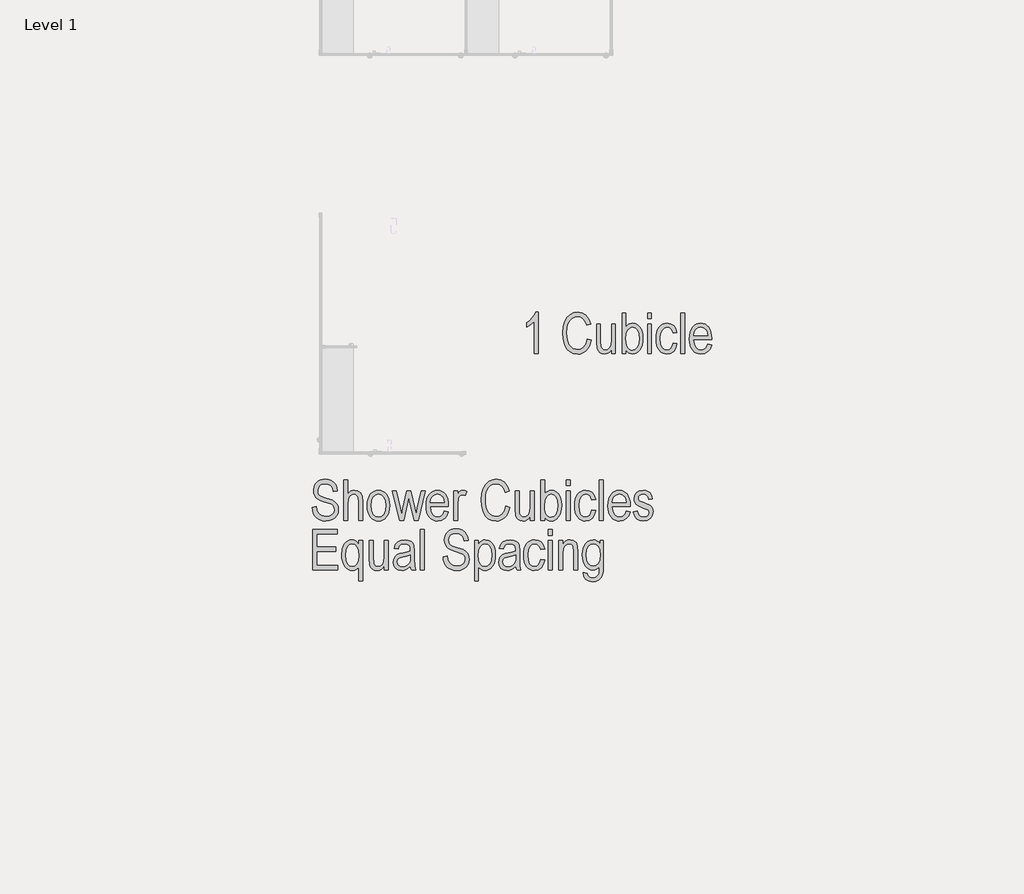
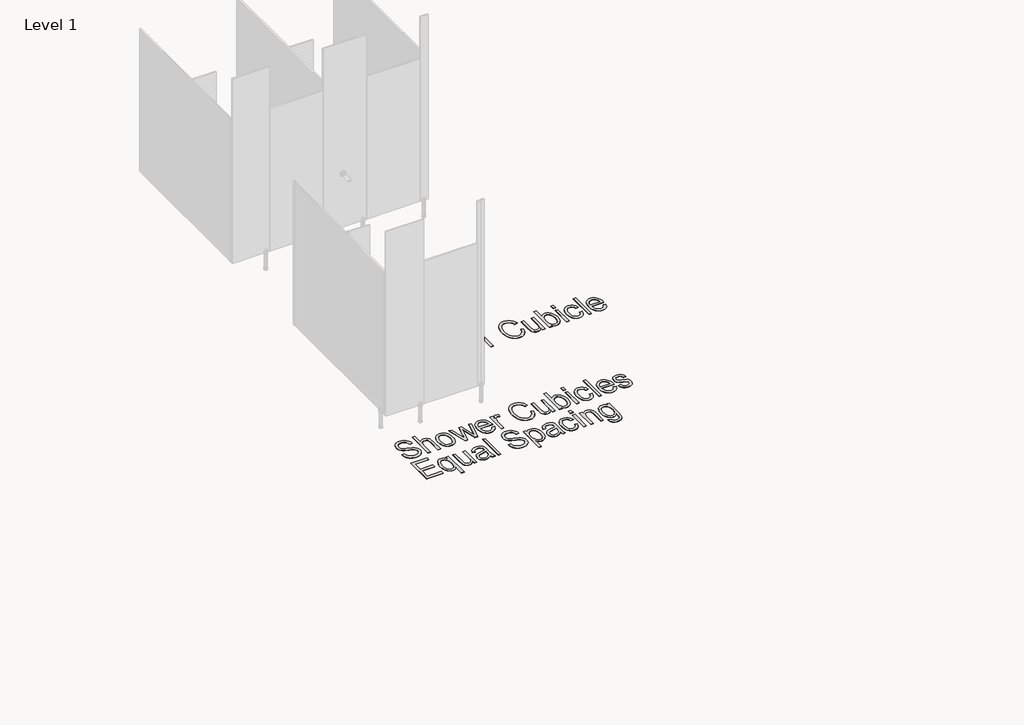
# One storey, part 13 of 21: 2 proxies.
"""IFC4 building model written with IfcOpenShell, lengths in millimetres."""

from ifc_helpers import new_model, si_unit, origin, origin_with_axes, place, context, project, spatial, polyline, outline, extrude, element, save

model = new_model("IFC4")

# Units and contexts
model_context = context("Model", 3, world=origin())
ifc_project = project(units=[si_unit("LENGTHUNIT", "METRE", prefix="MILLI")], contexts=[model_context])

# Site, building, storey
site = spatial("IfcSite", under=ifc_project)
building = spatial("IfcBuilding", under=site)
storey = spatial("IfcBuildingStorey", under=building, Name="Level 1", Elevation=0.0)

# Proxies
placement = place(None, origin())
element("IfcBuildingElementProxy", 1, Name="Arial Narrow-300mm", ObjectType="Arial Narrow-300mm", at=placement, inside=storey, context=model_context, shape_type="SweptSolid", body=[
    extrude(outline(polyline([(-19957.8675708, 22566.9451804), (-19928.334277, 22571.8673961), (-19924.1907712, 22548.3426663), (-19916.8362889, 22530.6822949), (-19905.943964, 22517.3961582), (-19891.1869308, 22506.9941322), (-19873.4592636, 22500.2741542), (-19853.6550366, 22498.0341615), (-19827.0154672, 22501.6392999), (-19807.0862621, 22512.4547152), (-19794.6557449, 22529.0383518), (-19790.5122392, 22549.9481546), (-19792.0215905, 22562.6190143), (-19796.5496443, 22573.5594077), (-19804.1252418, 22582.7212661), (-19814.7772241, 22590.056521), (-19867.4218585, 22608.8609229), (-19898.0030459, 22619.8205437), (-19917.7592043, 22630.5494356), (-19930.5069737, 22642.5954047), (-19940.0629939, 22657.5062571), (-19946.0331031, 22674.9166722), (-19948.0231395, 22694.4613292), (-19942.1972358, 22728.1477425), (-19934.9148563, 22742.4529317), (-19924.7195249, 22755.0661092), (-19912.0582788, 22765.3623845), (-19897.3781552, 22772.7168669), (-19880.6791541, 22777.1295563), (-19861.9612755, 22778.6004527), (-19836.5138052, 22775.9182298), (-19814.4695856, 22767.8715608), (-19796.4054388, 22754.816153), (-19782.8981869, 22737.1077131), (-19774.2650821, 22715.3134498), (-19770.8233766, 22690.0005713), (-19800.3566705, 22685.0783557), (-19806.0191412, 22711.2564673), (-19818.0843377, 22729.6474801), (-19836.4368956, 22740.5205775), (-19860.9614505, 22744.1449433), (-19885.6975068, 22740.5974871), (-19903.7616536, 22729.9551185), (-19914.8077977, 22713.6791203), (-19918.4898457, 22693.2307753), (-19916.1056475, 22674.6763297), (-19908.9530529, 22660.8518256), (-19892.2252107, 22649.565339), (-19860.9614505, 22638.7787649), (-19807.9707228, 22620.7819139), (-19787.5319914, 22607.4669361), (-19772.8230267, 22591.2101653), (-19763.9399657, 22571.7808727), (-19760.9789454, 22548.9483295), (-19764.0168753, 22525.6543286), (-19773.1306652, 22504.5330244), (-19787.4646955, 22486.8918804), (-19806.1633467, 22474.0383603), (-19829.1689366, 22466.1935791), (-19856.4237829, 22463.5786521), (-19878.2156429, 22465.3211357), (-19897.67618, 22470.5485863), (-19914.8053942, 22479.2610042), (-19929.6032857, 22491.4583891), (-19941.593976, 22506.6312149), (-19950.301587, 22524.2699554), (-19955.7261186, 22544.3746106), (-19957.8675708, 22566.9451804)])), origin_with_axes(), (0.0, 0.0, 1.0), 5.0),
    extrude(outline(polyline([(-19721.6012203, 22468.5008677), (-19721.6012203, 22773.6782371), (-19692.0679265, 22773.6782371), (-19692.0679265, 22667.3122336), (-19680.9256454, 22679.4158849), (-19668.4182186, 22688.039376), (-19654.545646, 22693.2019342), (-19639.3079276, 22694.9227869), (-19614.2546192, 22690.3082098), (-19595.0848966, 22676.4644783), (-19587.9851773, 22665.3125835), (-19582.9139493, 22650.3152077), (-19578.8569669, 22608.7840133), (-19578.8569669, 22468.5008677), (-19608.3902607, 22468.5008677), (-19608.3902607, 22610.860573), (-19610.8609822, 22635.8946541), (-19618.2731468, 22652.6994059), (-19630.0114774, 22662.2169713), (-19645.4606972, 22665.3894931), (-19663.3998659, 22661.322897), (-19678.4549239, 22649.1231086), (-19688.6646758, 22626.5597491), (-19692.0679265, 22591.4024394), (-19692.0679265, 22468.5008677), (-19721.6012203, 22468.5008677)])), origin_with_axes(), (0.0, 0.0, 1.0), 5.0),
    extrude(outline(polyline([(-19544.4014574, 22579.2507195), (-19542.9209473, 22606.1426486), (-19538.4794168, 22629.5207694), (-19531.0768659, 22649.385082), (-19520.7132947, 22665.7355864), (-19508.0808897, 22678.5049866), (-19493.8718376, 22687.6259868), (-19478.0861382, 22693.0985869), (-19460.7237916, 22694.9227869), (-19443.6114013, 22693.0985869), (-19427.9602938, 22687.6259868), (-19413.7704691, 22678.5049866), (-19401.0419271, 22665.7355864), (-19390.543764, 22649.5292876), (-19383.0450762, 22630.0975916), (-19378.5458634, 22607.4404984), (-19377.0461258, 22581.5580081), (-19378.5194257, 22553.6566403), (-19382.9393254, 22529.5574917), (-19390.3058249, 22509.2605625), (-19400.6189242, 22492.7658526), (-19413.2152777, 22479.9964524), (-19427.4315402, 22470.8754522), (-19443.2677115, 22465.4028521), (-19460.7237916, 22463.5786521), (-19477.9299155, 22465.407659), (-19493.631495, 22470.8946796), (-19507.82853, 22480.039714), (-19520.5210206, 22492.8427622), (-19530.9687117, 22509.2173009), (-19538.4313482, 22529.0768066), (-19542.9089301, 22552.4212795), (-19544.4014574, 22579.2507195)]), holes=[polyline([(-19514.8681636, 22579.3276291), (-19510.9169319, 22541.2958224), (-19499.0632369, 22514.4159104), (-19481.3644107, 22498.437937), (-19459.8777858, 22493.1119459), (-19439.5159641, 22498.4860056), (-19422.268982, 22514.6081845), (-19410.5018102, 22541.536165), (-19406.5794197, 22579.3276291), (-19410.5306513, 22617.2440714), (-19422.3843464, 22644.0855286), (-19440.0831726, 22660.063502), (-19461.5697975, 22665.3894931), (-19482.0758247, 22660.0346609), (-19499.2939657, 22643.9701642), (-19510.9746141, 22617.0998659), (-19514.8681636, 22579.3276291)])]), origin_with_axes(), (0.0, 0.0, 1.0), 5.0),
    extrude(outline(polyline([(-19300.9056027, 22468.5008677), (-19357.3572633, 22690.0005713), (-19327.1317829, 22690.0005713), (-19297.0601218, 22560.8693205), (-19285.9851366, 22512.8008084), (-19275.9868861, 22558.94658), (-19246.0690442, 22690.0005713), (-19217.3817562, 22690.0005713), (-19187.6946431, 22560.4078628), (-19177.6963926, 22517.7230241), (-19167.3905036, 22560.8693205), (-19136.5497463, 22690.0005713), (-19106.3242659, 22690.0005713), (-19159.238084, 22468.5008677), (-19192.1554011, 22468.5008677), (-19224.2267123, 22602.6312438), (-19231.8407646, 22640.778415), (-19270.6801224, 22468.5008677), (-19300.9056027, 22468.5008677)])), origin_with_axes(), (0.0, 0.0, 1.0), 5.0),
    extrude(outline(polyline([(-18963.5800125, 22537.4118866), (-18934.0467187, 22532.489671), (-18945.2562957, 22502.5333743), (-18962.8878259, 22480.9602261), (-18986.2298954, 22467.9240456), (-19014.5710901, 22463.5786521), (-19033.0630467, 22465.407659), (-19049.6995587, 22470.8946796), (-19064.4806262, 22480.039714), (-19077.4062491, 22492.8427622), (-19087.9044121, 22509.1019364), (-19095.4031, 22528.6153489), (-19099.9023127, 22551.3829996), (-19101.4020503, 22577.4048887), (-19099.8951024, 22604.3544999), (-19095.3742589, 22627.9056674), (-19087.8395196, 22648.0583911), (-19077.2908846, 22664.812671), (-19064.4349611, 22677.9858467), (-19049.9783561, 22687.3952579), (-19033.9210696, 22693.0409047), (-19016.2631017, 22694.9227869), (-18999.3453889, 22693.1057972), (-18983.8937657, 22687.6548279), (-18969.9082321, 22678.5698791), (-18957.3887882, 22665.8509508), (-18947.0756889, 22649.6903171), (-18939.7091894, 22630.2802519), (-18935.2892897, 22607.6207553), (-18933.8159898, 22581.7118273), (-18934.0467187, 22571.8673961), (-19071.8687565, 22571.8673961), (-19066.3216502, 22537.6041607), (-19053.6796315, 22512.9546277), (-19035.7116217, 22498.0726163), (-19014.186542, 22493.1119459), (-18997.3817902, 22495.8806922), (-18983.3457847, 22504.1869311), (-18972.0785254, 22518.0306626), (-18963.5800125, 22537.4118866)]), holes=[polyline([(-19069.8691064, 22601.4006899), (-18963.5800125, 22601.4006899), (-18967.8869512, 22626.6654998), (-18976.5008285, 22644.6238959), (-18994.1515862, 22660.1980938), (-19016.0323729, 22665.3894931), (-19036.1250109, 22661.063327), (-19053.0258997, 22648.0848288), (-19064.8892085, 22627.7614619), (-19069.8691064, 22601.4006899)])]), origin_with_axes(), (0.0, 0.0, 1.0), 5.0),
    extrude(outline(polyline([(-18894.6689936, 22468.5008677), (-18894.6689936, 22690.0005713), (-18865.1356998, 22690.0005713), (-18865.1356998, 22660.6210967), (-18855.2528137, 22677.8873063), (-18846.2159335, 22688.1547404), (-18837.0636888, 22693.2307753), (-18826.8347094, 22694.9227869), (-18811.6835144, 22692.4616791), (-18796.2246809, 22685.0783557), (-18806.0691122, 22655.5450619), (-18828.9881787, 22660.4672775), (-18838.6307223, 22658.70797), (-18847.4080326, 22653.4300473), (-18854.5125586, 22644.9988303), (-18859.1367495, 22633.7796396), (-18865.1356998, 22587.0955007), (-18865.1356998, 22468.5008677), (-18894.6689936, 22468.5008677)])), origin_with_axes(), (0.0, 0.0, 1.0), 5.0),
    extrude(outline(polyline([(-18500.8917428, 22576.7896117), (-18471.358449, 22566.9451804), (-18486.1827781, 22521.4819817), (-18496.6376795, 22503.7038425), (-18509.1210721, 22489.2280101), (-18523.3541585, 22478.006416), (-18539.0581414, 22469.9909916), (-18556.2330207, 22465.181737), (-18574.8787966, 22463.5786521), (-18606.4117405, 22467.8086812), (-18633.0224688, 22480.4987683), (-18654.9801651, 22502.542988), (-18672.5540131, 22534.8354144), (-18684.090456, 22575.6263537), (-18687.9359369, 22623.1661121), (-18684.1000697, 22669.5906811), (-18672.5924679, 22708.2666059), (-18654.5379348, 22738.8093384), (-18631.0612735, 22760.8343307), (-18603.3449694, 22774.1589222), (-18572.571508, 22778.6004527), (-18539.6926457, 22772.9764368), (-18511.8129088, 22756.1043891), (-18490.2397605, 22728.3304028), (-18476.2806646, 22690.0005713), (-18505.8139584, 22680.15614), (-18516.3986448, 22708.1512415), (-18531.2325876, 22728.1477425), (-18550.3157869, 22740.1456431), (-18573.6482427, 22744.1449433), (-18597.3267917, 22740.9531941), (-18617.6020901, 22731.3779465), (-18634.3107049, 22715.0442661), (-18647.2892031, 22691.5772185), (-18655.6242831, 22660.9575763), (-18658.4026431, 22623.1661121), (-18656.9894289, 22593.8539335), (-18652.7497861, 22568.444918), (-18645.6837148, 22546.9390657), (-18635.7912151, 22529.3363766), (-18623.5577787, 22515.6416575), (-18609.4688979, 22505.8597153), (-18593.5245724, 22499.99055), (-18575.7248024, 22498.0341615), (-18549.8735566, 22502.9179224), (-18527.8485644, 22517.5692048), (-18511.0534263, 22542.1418282), (-18500.8917428, 22576.7896117)])), origin_with_axes(), (0.0, 0.0, 1.0), 5.0),
    extrude(outline(polyline([(-18318.7697643, 22468.5008677), (-18318.7697643, 22498.4187096), (-18329.7293851, 22483.2002187), (-18342.4579271, 22472.3078939), (-18356.9553903, 22465.7609625), (-18373.2217748, 22463.5786521), (-18392.0454041, 22466.4723765), (-18407.9080131, 22475.1535498), (-18419.9059137, 22488.2666399), (-18427.1354179, 22504.4561147), (-18431.9807239, 22552.7938105), (-18431.9807239, 22690.0005713), (-18402.4474301, 22690.0005713), (-18402.4474301, 22565.406988), (-18399.1018617, 22518.9920328), (-18394.3238516, 22508.4265738), (-18386.6809582, 22500.1876309), (-18376.9711187, 22494.8808671), (-18365.9922706, 22493.1119459), (-18346.3803176, 22497.7072957), (-18330.6138457, 22511.4933449), (-18321.7307847, 22533.9509537), (-18318.7697643, 22569.6370171), (-18318.7697643, 22690.0005713), (-18289.2364705, 22690.0005713), (-18289.2364705, 22468.5008677), (-18318.7697643, 22468.5008677)])), origin_with_axes(), (0.0, 0.0, 1.0), 5.0),
    extrude(outline(polyline([(-18210.4810203, 22468.5008677), (-18240.0143142, 22468.5008677), (-18240.0143142, 22773.6782371), (-18210.4810203, 22773.6782371), (-18210.4810203, 22666.3893182), (-18199.9155614, 22678.9448135), (-18188.0618663, 22687.847102), (-18174.8430255, 22693.1538657), (-18160.1821293, 22694.9227869), (-18139.6953295, 22691.7406514), (-18121.1504975, 22682.1942449), (-18105.3359571, 22666.1874304), (-18093.0400317, 22643.6240709), (-18085.1375683, 22615.0329199), (-18082.5034138, 22580.9427311), (-18083.9671, 22554.4041056), (-18088.3581586, 22531.0860704), (-18095.6765896, 22510.9886255), (-18105.9223929, 22494.111771), (-18118.1197778, 22480.7535315), (-18131.2929536, 22471.2119318), (-18145.4419201, 22465.486972), (-18160.5666774, 22463.5786521), (-18175.5255984, 22465.5590748), (-18188.8694173, 22471.5003429), (-18200.5404521, 22481.3447741), (-18210.4810203, 22495.0346864), (-18210.4810203, 22468.5008677)]), holes=[polyline([(-18210.4810203, 22580.9427311), (-18208.9043731, 22550.419226), (-18204.1744316, 22528.6826448), (-18196.5603793, 22513.396858), (-18186.3313999, 22502.2257358), (-18174.1604526, 22495.3903934), (-18160.7204967, 22493.1119459), (-18142.714032, 22498.5340741), (-18126.8418094, 22514.8004585), (-18115.7379831, 22541.8726445), (-18112.0367076, 22579.7121772), (-18115.6033912, 22618.0612362), (-18126.303442, 22644.6623507), (-18142.1948921, 22660.2077075), (-18161.3357736, 22665.3894931), (-18179.447989, 22659.967365), (-18195.4836446, 22643.7009805), (-18206.7316764, 22617.1671618), (-18210.4810203, 22580.9427311)])]), origin_with_axes(), (0.0, 0.0, 1.0), 5.0),
    extrude(outline(polyline([(-18048.0479044, 22729.3782964), (-18048.0479044, 22773.6782371), (-18018.5146106, 22773.6782371), (-18018.5146106, 22729.3782964), (-18048.0479044, 22729.3782964)])), origin_with_axes(), (0.0, 0.0, 1.0), 5.0),
    extrude(outline(polyline([(-18048.0479044, 22468.5008677), (-18048.0479044, 22690.0005713), (-18018.5146106, 22690.0005713), (-18018.5146106, 22468.5008677), (-18048.0479044, 22468.5008677)])), origin_with_axes(), (0.0, 0.0, 1.0), 5.0),
    extrude(outline(polyline([(-17856.0814946, 22547.2563179), (-17826.5482008, 22542.3341023), (-17835.6331496, 22508.5034835), (-17852.5821069, 22483.7674272), (-17875.549242, 22468.6258459), (-17902.6887239, 22463.5786521), (-17919.6665224, 22465.407659), (-17935.0676736, 22470.8946796), (-17948.8921777, 22480.039714), (-17961.1400346, 22492.8427622), (-17971.1671262, 22509.2317214), (-17978.3293345, 22529.1344888), (-17982.6266595, 22552.5510645), (-17984.0591011, 22579.4814484), (-17982.5833978, 22606.5223898), (-17978.1562879, 22629.9629997), (-17970.7777713, 22649.8032781), (-17960.447848, 22666.0432249), (-17947.8010225, 22678.6780333), (-17933.471799, 22687.7028964), (-17917.4601777, 22693.1178143), (-17899.7661584, 22694.9227869), (-17873.4726823, 22690.6158483), (-17851.6591915, 22677.6950322), (-17835.5946948, 22656.1603388), (-17826.5482008, 22626.011768), (-17856.0814946, 22621.0895524), (-17862.3880834, 22640.518845), (-17872.0786954, 22654.3529628), (-17884.595736, 22662.6303605), (-17899.3816103, 22665.3894931), (-17921.1758737, 22660.2846171), (-17938.8746998, 22644.9699892), (-17950.6130304, 22618.5419213), (-17954.5258073, 22580.0967253), (-17950.8822141, 22540.5267262), (-17939.9514345, 22513.6468143), (-17923.329343, 22498.245663), (-17902.6118143, 22493.1119459), (-17886.0666324, 22496.4094458), (-17872.1171502, 22506.3019456), (-17861.7824202, 22523.1355385), (-17856.0814946, 22547.2563179)])), origin_with_axes(), (0.0, 0.0, 1.0), 5.0),
    extrude(outline(polyline([(-17797.014907, 22468.5008677), (-17797.014907, 22773.6782371), (-17767.4816132, 22773.6782371), (-17767.4816132, 22468.5008677), (-17797.014907, 22468.5008677)])), origin_with_axes(), (0.0, 0.0, 1.0), 5.0),
    extrude(outline(polyline([(-17595.204066, 22537.4118866), (-17565.6707722, 22532.489671), (-17576.8803492, 22502.5333743), (-17594.5118794, 22480.9602261), (-17617.8539489, 22467.9240456), (-17646.1951436, 22463.5786521), (-17664.6871002, 22465.407659), (-17681.3236122, 22470.8946796), (-17696.1046796, 22480.039714), (-17709.0303025, 22492.8427622), (-17719.5284656, 22509.1019364), (-17727.0271534, 22528.6153489), (-17731.5263662, 22551.3829996), (-17733.0261037, 22577.4048887), (-17731.5191559, 22604.3544999), (-17726.9983123, 22627.9056674), (-17719.4635731, 22648.0583911), (-17708.9149381, 22664.812671), (-17696.0590145, 22677.9858467), (-17681.6024095, 22687.3952579), (-17665.5451231, 22693.0409047), (-17647.8871552, 22694.9227869), (-17630.9694424, 22693.1057972), (-17615.5178192, 22687.6548279), (-17601.5322856, 22678.5698791), (-17589.0128416, 22665.8509508), (-17578.6997424, 22649.6903171), (-17571.3332429, 22630.2802519), (-17566.9133432, 22607.6207553), (-17565.4400433, 22581.7118273), (-17565.6707722, 22571.8673961), (-17703.4928099, 22571.8673961), (-17697.9457036, 22537.6041607), (-17685.303685, 22512.9546277), (-17667.3356752, 22498.0726163), (-17645.8105955, 22493.1119459), (-17629.0058436, 22495.8806922), (-17614.9698381, 22504.1869311), (-17603.7025789, 22518.0306626), (-17595.204066, 22537.4118866)]), holes=[polyline([(-17701.4931598, 22601.4006899), (-17595.204066, 22601.4006899), (-17599.5110046, 22626.6654998), (-17608.124882, 22644.6238959), (-17625.7756396, 22660.1980938), (-17647.6564263, 22665.3894931), (-17667.7490644, 22661.063327), (-17684.6499532, 22648.0848288), (-17696.513262, 22627.7614619), (-17701.4931598, 22601.4006899)])]), origin_with_axes(), (0.0, 0.0, 1.0), 5.0),
    extrude(outline(polyline([(-17541.059694, 22532.489671), (-17511.5264002, 22537.4118866), (-17506.4888201, 22517.8383885), (-17496.7597533, 22504.0331118), (-17482.7237477, 22495.8422374), (-17464.7653516, 22493.1119459), (-17447.0376844, 22495.5345989), (-17433.8476847, 22502.8025579), (-17425.6568102, 22513.7814061), (-17422.9265187, 22527.3367265), (-17425.0992155, 22538.7385775), (-17431.6173057, 22547.2563179), (-17462.2273342, 22559.9464051), (-17510.142027, 22579.2507195), (-17521.1304889, 22588.4125779), (-17529.330977, 22600.2085908), (-17534.435853, 22614.2349826), (-17536.1374783, 22630.0879779), (-17531.6286519, 22656.218021), (-17518.1021726, 22676.925936), (-17496.5963203, 22690.4235742), (-17468.1493749, 22694.9227869), (-17449.2872908, 22693.048115), (-17432.8478596, 22687.4240991), (-17419.39829, 22678.6275613), (-17409.5057902, 22667.235324), (-17402.6512204, 22651.8149453), (-17398.3154406, 22630.9339837), (-17427.8487344, 22626.011768), (-17431.8624551, 22643.2395228), (-17439.750498, 22655.5450619), (-17451.5128629, 22662.9283853), (-17467.1495498, 22665.3894931), (-17484.5311238, 22663.293706), (-17496.8366629, 22657.0063446), (-17504.1623041, 22647.4503244), (-17506.6041845, 22635.5485608), (-17504.2392137, 22624.0698002), (-17497.1443014, 22615.321331), (-17463.3809785, 22601.4006899), (-17415.1201924, 22582.1348302), (-17405.9871751, 22573.7324543), (-17399.1229916, 22562.7536062), (-17394.8256666, 22549.3424913), (-17393.3932249, 22533.6433153), (-17398.3250543, 22505.321348), (-17413.1205423, 22482.9598762), (-17436.4337706, 22468.4239581), (-17466.918821, 22463.5786521), (-17495.5195857, 22467.8855908), (-17517.409986, 22480.8064068), (-17532.5900222, 22502.3411002), (-17541.059694, 22532.489671)])), origin_with_axes(), (0.0, 0.0, 1.0), 5.0),
    extrude(outline(polyline([(-19952.9453551, 22095.3986553), (-19952.9453551, 22400.5760247), (-19770.8233766, 22400.5760247), (-19770.8233766, 22366.1205153), (-19923.4120613, 22366.1205153), (-19923.4120613, 22267.6762026), (-19780.6678079, 22267.6762026), (-19780.6678079, 22233.2206931), (-19923.4120613, 22233.2206931), (-19923.4120613, 22129.8541648), (-19765.901161, 22129.8541648), (-19765.901161, 22095.3986553), (-19952.9453551, 22095.3986553)])), origin_with_axes(), (0.0, 0.0, 1.0), 5.0),
    extrude(outline(polyline([(-19608.3902607, 22011.7209895), (-19608.3902607, 22117.7793545), (-19617.2252532, 22106.7716653), (-19628.9635839, 22098.0520372), (-19642.1631973, 22092.3703391), (-19655.3820381, 22090.4764397), (-19671.2855053, 22092.403987), (-19686.0785899, 22098.186629), (-19699.7612918, 22107.8243657), (-19712.3336112, 22121.317197), (-19722.8485982, 22138.3142229), (-19730.3593032, 22158.4645431), (-19734.8657262, 22181.7681578), (-19736.3678672, 22208.2250668), (-19731.4264242, 22252.8999419), (-19716.602095, 22289.40317), (-19705.685736, 22303.5857845), (-19692.7024308, 22313.7162234), (-19677.6521797, 22319.7944868), (-19660.5349826, 22321.8205745), (-19644.7685106, 22319.6574915), (-19630.8478695, 22313.1682424), (-19618.7346045, 22302.3528272), (-19608.3902607, 22287.2112459), (-19608.3902607, 22316.8983589), (-19578.8569669, 22316.8983589), (-19578.8569669, 22011.7209895), (-19608.3902607, 22011.7209895)]), holes=[polyline([(-19706.8345734, 22206.1485071), (-19703.0756157, 22168.2224511), (-19691.7987428, 22141.3521529), (-19675.2920158, 22125.3453383), (-19655.8434958, 22120.0097335), (-19638.2792615, 22125.1338369), (-19622.8108143, 22140.506147), (-19611.9953991, 22166.0112995), (-19608.3902607, 22201.53393), (-19612.1780594, 22241.623069), (-19623.5414557, 22269.9065815), (-19640.1347061, 22286.6921059), (-19659.6120671, 22292.2872807), (-19677.3878029, 22287.0574266), (-19692.7216583, 22271.3678643), (-19703.3063446, 22244.6033168), (-19706.8345734, 22206.1485071)])]), origin_with_axes(), (0.0, 0.0, 1.0), 5.0),
    extrude(outline(polyline([(-19416.4238509, 22095.3986553), (-19416.4238509, 22125.3164972), (-19427.3834717, 22110.0980063), (-19440.1120137, 22099.2056815), (-19454.6094769, 22092.6587501), (-19470.8758614, 22090.4764397), (-19489.6994907, 22093.3701641), (-19505.5620997, 22102.0513374), (-19517.5600003, 22115.1644275), (-19524.7895045, 22131.3539023), (-19529.6348105, 22179.6915981), (-19529.6348105, 22316.8983589), (-19500.1015167, 22316.8983589), (-19500.1015167, 22192.3047756), (-19496.7559483, 22145.8898204), (-19491.9779382, 22135.3243614), (-19484.3350448, 22127.0854185), (-19474.6252053, 22121.7786547), (-19463.6463572, 22120.0097335), (-19444.0344043, 22124.6050833), (-19428.2679323, 22138.3911325), (-19419.3848713, 22160.8487413), (-19416.4238509, 22196.5348047), (-19416.4238509, 22316.8983589), (-19386.8905571, 22316.8983589), (-19386.8905571, 22095.3986553), (-19416.4238509, 22095.3986553)])), origin_with_axes(), (0.0, 0.0, 1.0), 5.0),
    extrude(outline(polyline([(-19219.5352255, 22122.932299), (-19235.1574919, 22108.7809291), (-19251.4142627, 22098.6288593), (-19268.3055379, 22092.5145446), (-19285.8313174, 22090.4764397), (-19311.1345821, 22094.764151), (-19330.746535, 22107.6272848), (-19343.3212578, 22127.7391502), (-19347.512832, 22153.7730564), (-19345.5035682, 22171.9044991), (-19339.4757768, 22187.8440177), (-19329.9678251, 22201.0628585), (-19317.5180805, 22211.0322679), (-19300.0019147, 22218.2906133), (-19275.2946995, 22223.3762618), (-19242.3581551, 22230.1827631), (-19219.5352255, 22238.1429087), (-19219.5352255, 22247.6027919), (-19221.6310127, 22266.7148323), (-19227.918374, 22279.1357358), (-19242.8388402, 22288.9993945), (-19264.0658951, 22292.2872807), (-19283.2932999, 22290.2203347), (-19296.9832122, 22284.0194967), (-19306.4623227, 22272.1081194), (-19313.0573226, 22252.9095556), (-19342.5906164, 22257.8317713), (-19332.8038673, 22286.7401744), (-19316.3644362, 22306.5540151), (-19292.3494076, 22318.0039347), (-19259.835866, 22321.8205745), (-19234.2441902, 22319.1383516), (-19214.8437387, 22311.0916826), (-19201.5479883, 22299.0841683), (-19194.2704156, 22284.5194092), (-19190.0019317, 22238.2198184), (-19190.0019317, 22188.1516562), (-19188.0022816, 22121.9709288), (-19180.1575004, 22095.3986553), (-19209.6907943, 22095.3986553), (-19215.9204734, 22108.0502877), (-19219.5352255, 22122.932299)]), holes=[polyline([(-19219.5352255, 22208.6096149), (-19241.6275137, 22200.5725597), (-19272.372134, 22193.842968), (-19300.8671479, 22186.1135513), (-19313.4803255, 22173.8080122), (-19317.9795382, 22155.465068), (-19315.403066, 22140.9387637), (-19307.6736492, 22129.6618907), (-19295.3873376, 22122.4227728), (-19279.1401805, 22120.0097335), (-19262.6238397, 22122.1920439), (-19247.6841462, 22128.7389753), (-19235.3209249, 22138.9294998), (-19226.5340009, 22152.0425899), (-19221.2849194, 22169.9529175), (-19219.5352255, 22194.5351546), (-19219.5352255, 22208.6096149)])]), origin_with_axes(), (0.0, 0.0, 1.0), 5.0),
    extrude(outline(polyline([(-19145.701991, 22095.3986553), (-19145.701991, 22400.5760247), (-19116.1686972, 22400.5760247), (-19116.1686972, 22095.3986553), (-19145.701991, 22095.3986553)])), origin_with_axes(), (0.0, 0.0, 1.0), 5.0),
    extrude(outline(polyline([(-18973.4244438, 22193.842968), (-18943.89115, 22198.7651837), (-18939.7476442, 22175.2404539), (-18932.3931619, 22157.5800825), (-18921.500837, 22144.2939458), (-18906.7438038, 22133.8919198), (-18889.0161366, 22127.1719418), (-18869.2119096, 22124.9319491), (-18842.5723402, 22128.5370875), (-18822.6431351, 22139.3525028), (-18810.2126179, 22155.9361394), (-18806.0691122, 22176.8459422), (-18807.5784635, 22189.5168019), (-18812.1065173, 22200.4571953), (-18819.6821148, 22209.6190537), (-18830.3340971, 22216.9543086), (-18882.9787315, 22235.7587105), (-18913.5599189, 22246.7183313), (-18933.3160773, 22257.4472232), (-18946.0638467, 22269.4931923), (-18955.6198669, 22284.4040447), (-18961.5899761, 22301.8144598), (-18963.5800125, 22321.3591168), (-18957.7541088, 22355.0455301), (-18950.4717293, 22369.3507193), (-18940.2763979, 22381.9638968), (-18927.6151518, 22392.2601721), (-18912.9350282, 22399.6146545), (-18896.2360271, 22404.0273439), (-18877.5181485, 22405.4982403), (-18852.0706782, 22402.8160174), (-18830.0264586, 22394.7693484), (-18811.9623118, 22381.7139406), (-18798.4550599, 22364.0055007), (-18789.8219551, 22342.2112374), (-18786.3802496, 22316.8983589), (-18815.9135435, 22311.9761433), (-18821.5760142, 22338.1542549), (-18833.6412107, 22356.5452676), (-18851.9937686, 22367.4183651), (-18876.5183235, 22371.0427309), (-18901.2543798, 22367.4952747), (-18919.3185266, 22356.8529061), (-18930.3646707, 22340.5769079), (-18934.0467187, 22320.1285629), (-18931.6625205, 22301.5741173), (-18924.5099259, 22287.7496132), (-18907.7820837, 22276.4631266), (-18876.5183235, 22265.6765524), (-18823.5275958, 22247.6797015), (-18803.0888644, 22234.3647237), (-18788.3798997, 22218.1079529), (-18779.4968387, 22198.6786603), (-18776.5358184, 22175.8461171), (-18779.5737483, 22152.5521162), (-18788.6875382, 22131.430812), (-18803.0215685, 22113.789668), (-18821.7202197, 22100.9361479), (-18844.7258096, 22093.0913667), (-18871.9806559, 22090.4764397), (-18893.7725159, 22092.2189233), (-18913.233053, 22097.4463739), (-18930.3622672, 22106.1587918), (-18945.1601587, 22118.3561767), (-18957.150849, 22133.5290025), (-18965.85846, 22151.167743), (-18971.2829916, 22171.2723982), (-18973.4244438, 22193.842968)])), origin_with_axes(), (0.0, 0.0, 1.0), 5.0),
    extrude(outline(polyline([(-18737.1580933, 22011.7209895), (-18737.1580933, 22316.8983589), (-18707.6247995, 22316.8983589), (-18707.6247995, 22287.9034324), (-18696.7517021, 22303.391107), (-18684.7441877, 22313.8604289), (-18671.2369359, 22319.8305381), (-18655.8646257, 22321.8205745), (-18635.6758506, 22318.638439), (-18617.5636353, 22309.0920325), (-18602.1528703, 22293.0659906), (-18590.0684464, 22270.4449488), (-18582.2525063, 22241.8730253), (-18579.647193, 22207.994338), (-18581.1373168, 22181.3884166), (-18585.6076885, 22158.0223128), (-18593.0583078, 22137.8960268), (-18603.489175, 22121.0095586), (-18615.9293059, 22107.651319), (-18629.4077167, 22098.1097194), (-18643.9244073, 22092.3847596), (-18659.4793778, 22090.4764397), (-18673.3134956, 22092.2261335), (-18686.2054705, 22097.475215), (-18697.7707545, 22105.9160458), (-18707.6247995, 22117.2409872), (-18707.6247995, 22011.7209895), (-18737.1580933, 22011.7209895)]), holes=[polyline([(-18707.6247995, 22204.148857), (-18704.0292748, 22166.6169628), (-18693.2427007, 22140.4676922), (-18677.3416369, 22125.1242232), (-18658.4026431, 22120.0097335), (-18639.992403, 22125.3068835), (-18623.9855885, 22141.1983336), (-18612.8817622, 22168.1647689), (-18609.1804868, 22206.6868744), (-18612.7760115, 22244.6417716), (-18623.5625856, 22271.2909547), (-18639.5213316, 22287.0381992), (-18658.633372, 22292.2872807), (-18676.3418118, 22286.6440374), (-18692.3966949, 22269.7143075), (-18703.8177733, 22242.0364582), (-18707.6247995, 22204.148857)])]), origin_with_axes(), (0.0, 0.0, 1.0), 5.0),
    extrude(outline(polyline([(-18427.0585083, 22122.932299), (-18442.6807747, 22108.7809291), (-18458.9375455, 22098.6288593), (-18475.8288206, 22092.5145446), (-18493.3546001, 22090.4764397), (-18518.6578649, 22094.764151), (-18538.2698178, 22107.6272848), (-18550.8445405, 22127.7391502), (-18555.0361148, 22153.7730564), (-18553.026851, 22171.9044991), (-18546.9990596, 22187.8440177), (-18537.4911079, 22201.0628585), (-18525.0413633, 22211.0322679), (-18507.5251975, 22218.2906133), (-18482.8179823, 22223.3762618), (-18449.8814378, 22230.1827631), (-18427.0585083, 22238.1429087), (-18427.0585083, 22247.6027919), (-18429.1542954, 22266.7148323), (-18435.4416568, 22279.1357358), (-18450.3621229, 22288.9993945), (-18471.5891779, 22292.2872807), (-18490.8165827, 22290.2203347), (-18504.5064949, 22284.0194967), (-18513.9856055, 22272.1081194), (-18520.5806054, 22252.9095556), (-18550.1138992, 22257.8317713), (-18540.3271501, 22286.7401744), (-18523.887719, 22306.5540151), (-18499.8726904, 22318.0039347), (-18467.3591488, 22321.8205745), (-18441.767473, 22319.1383516), (-18422.3670215, 22311.0916826), (-18409.0712711, 22299.0841683), (-18401.7936983, 22284.5194092), (-18397.5252145, 22238.2198184), (-18397.5252145, 22188.1516562), (-18395.5255644, 22121.9709288), (-18387.6807832, 22095.3986553), (-18417.214077, 22095.3986553), (-18423.4437562, 22108.0502877), (-18427.0585083, 22122.932299)]), holes=[polyline([(-18427.0585083, 22208.6096149), (-18449.1507964, 22200.5725597), (-18479.8954167, 22193.842968), (-18508.3904307, 22186.1135513), (-18521.0036083, 22173.8080122), (-18525.502821, 22155.465068), (-18522.9263487, 22140.9387637), (-18515.196932, 22129.6618907), (-18502.9106203, 22122.4227728), (-18486.6634632, 22120.0097335), (-18470.1471225, 22122.1920439), (-18455.2074289, 22128.7389753), (-18442.8442076, 22138.9294998), (-18434.0572836, 22152.0425899), (-18428.8082021, 22169.9529175), (-18427.0585083, 22194.5351546), (-18427.0585083, 22208.6096149)])]), origin_with_axes(), (0.0, 0.0, 1.0), 5.0),
    extrude(outline(polyline([(-18240.0143142, 22174.1541055), (-18210.4810203, 22169.2318899), (-18219.5659691, 22135.4012711), (-18236.5149265, 22110.6652148), (-18259.4820615, 22095.5236335), (-18286.6215434, 22090.4764397), (-18303.5993419, 22092.3054466), (-18319.0004932, 22097.7924672), (-18332.8249972, 22106.9375016), (-18345.0728541, 22119.7405498), (-18355.0999457, 22136.129509), (-18362.262154, 22156.0322764), (-18366.559479, 22179.4488521), (-18367.9919207, 22206.379236), (-18366.5162173, 22233.4201774), (-18362.0891074, 22256.8607873), (-18354.7105908, 22276.7010657), (-18344.3806675, 22292.9410125), (-18331.733842, 22305.5758209), (-18317.4046186, 22314.600684), (-18301.3929972, 22320.0156019), (-18283.6989779, 22321.8205745), (-18257.4055018, 22317.5136359), (-18235.592011, 22304.5928198), (-18219.5275143, 22283.0581264), (-18210.4810203, 22252.9095556), (-18240.0143142, 22247.98734), (-18246.3209029, 22267.4166326), (-18256.011515, 22281.2507504), (-18268.5285555, 22289.5281481), (-18283.3144298, 22292.2872807), (-18305.1086932, 22287.1824047), (-18322.8075193, 22271.8677768), (-18334.54585, 22245.4397089), (-18338.4586269, 22206.9945129), (-18334.8150336, 22167.4245138), (-18323.884254, 22140.5446019), (-18307.2621625, 22125.1434506), (-18286.5446338, 22120.0097335), (-18269.999452, 22123.3072334), (-18256.0499698, 22133.1997332), (-18245.7152397, 22150.0333261), (-18240.0143142, 22174.1541055)])), origin_with_axes(), (0.0, 0.0, 1.0), 5.0),
    extrude(outline(polyline([(-18180.9477265, 22356.276084), (-18180.9477265, 22400.5760247), (-18151.4144327, 22400.5760247), (-18151.4144327, 22356.276084), (-18180.9477265, 22356.276084)])), origin_with_axes(), (0.0, 0.0, 1.0), 5.0),
    extrude(outline(polyline([(-18180.9477265, 22095.3986553), (-18180.9477265, 22316.8983589), (-18151.4144327, 22316.8983589), (-18151.4144327, 22095.3986553), (-18180.9477265, 22095.3986553)])), origin_with_axes(), (0.0, 0.0, 1.0), 5.0),
    extrude(outline(polyline([(-18102.1922764, 22095.3986553), (-18102.1922764, 22316.8983589), (-18072.6589826, 22316.8983589), (-18072.6589826, 22288.2879805), (-18062.1415921, 22303.0065589), (-18049.5091872, 22313.4758808), (-18034.8194499, 22319.7344011), (-18018.1300625, 22321.8205745), (-17992.6345237, 22316.0908079), (-17973.7147573, 22301.0934321), (-17962.9858654, 22277.0207213), (-17959.448023, 22231.5286815), (-17959.448023, 22095.3986553), (-17988.9813168, 22095.3986553), (-17988.9813168, 22232.1439584), (-17993.0190718, 22268.3683891), (-17998.2008574, 22278.5204589), (-18005.6707042, 22286.0576016), (-18014.9767681, 22290.7298609), (-18025.6672052, 22292.2872807), (-18044.9522922, 22288.1053202), (-18059.8919858, 22275.5594385), (-18069.4672334, 22252.8614871), (-18072.6589826, 22218.2233173), (-18072.6589826, 22095.3986553), (-18102.1922764, 22095.3986553)])), origin_with_axes(), (0.0, 0.0, 1.0), 5.0),
    extrude(outline(polyline([(-17920.0702979, 22075.7097928), (-17890.5370041, 22070.7875772), (-17886.3454298, 22055.5690862), (-17877.9238265, 22044.8305806), (-17865.3491037, 22038.4566959), (-17848.6981712, 22036.3320677), (-17830.3936818, 22038.7258796), (-17816.2423118, 22045.9073153), (-17806.0902421, 22057.8186926), (-17799.7836533, 22074.4023293), (-17797.014907, 22122.932299), (-17807.5611385, 22110.9343984), (-17819.3571514, 22102.3205211), (-17832.4606278, 22097.1291218), (-17846.9292499, 22095.3986553), (-17862.3928903, 22097.1195081), (-17876.4817711, 22102.2820663), (-17889.1958926, 22110.8863299), (-17900.5352546, 22122.932299), (-17911.2353054, 22140.1167921), (-17918.8781988, 22159.9835081), (-17923.4639348, 22182.5324471), (-17924.9925135, 22207.7636091), (-17922.2526083, 22241.2000661), (-17914.0328928, 22270.1373104), (-17901.362033, 22293.2774921), (-17885.2686951, 22309.3227614), (-17866.3969973, 22318.6961213), (-17845.3910575, 22321.8205745), (-17829.8745418, 22319.9362889), (-17815.7808541, 22314.2834318), (-17803.1676765, 22304.8620035), (-17792.0926914, 22291.6720038), (-17792.0926914, 22316.8983589), (-17767.4816132, 22316.8983589), (-17767.4816132, 22126.2394127), (-17769.5485592, 22082.6316585), (-17775.7493973, 22053.636732), (-17786.6513358, 22034.2266669), (-17802.8215833, 22019.3734967), (-17823.539112, 22009.9424546), (-17848.0828942, 22006.7987739), (-17879.0294023, 22011.3652825), (-17901.8811729, 22025.0648085), (-17915.8306551, 22046.8590718), (-17920.0702979, 22075.7097928)]), holes=[polyline([(-17895.4592197, 22210.0708977), (-17891.7291032, 22171.6929977), (-17880.5387536, 22145.3129982), (-17863.9455032, 22130.0272114), (-17844.0066844, 22124.9319491), (-17824.0101834, 22129.9214607), (-17807.2438864, 22144.8899953), (-17795.8804901, 22170.7412411), (-17792.0926914, 22208.3788861), (-17795.9862408, 22245.4493226), (-17807.6668893, 22271.5985931), (-17824.9042577, 22287.1151088), (-17845.4679672, 22292.2872807), (-17864.1666184, 22287.1151088), (-17880.4233891, 22271.5985931), (-17891.7002621, 22245.8723255), (-17895.4592197, 22210.0708977)])]), origin_with_axes(), (0.0, 0.0, 1.0), 5.0),
])
element("IfcBuildingElementProxy", 2, Name="Arial Narrow-300mm", ObjectType="Arial Narrow-300mm", at=placement, inside=storey, context=model_context, shape_type="SweptSolid", body=[
    extrude(outline(polyline([(-18257.3931609, 23725.7607897), (-18286.9264547, 23725.7607897), (-18286.9264547, 23966.9493558), (-18314.3831888, 23941.9537296), (-18345.9930423, 23922.6494151), (-18345.9930423, 23957.1049246), (-18323.0259073, 23973.7558571), (-18302.8852007, 23993.7139033), (-18286.9360684, 24015.0563227), (-18276.5436561, 24035.8603747), (-18257.3931609, 24035.8603747), (-18257.3931609, 23725.7607897)])), origin_with_axes(), (0.0, 0.0, 1.0), 5.0),
    extrude(outline(polyline([(-17888.2269883, 23834.0495337), (-17858.6936945, 23824.2051024), (-17873.5180236, 23778.7419037), (-17883.9729249, 23760.9637645), (-17896.4563175, 23746.4879321), (-17910.6894039, 23735.266338), (-17926.3933868, 23727.2509136), (-17943.5682662, 23722.441659), (-17962.214042, 23720.8385741), (-17993.7469859, 23725.0686031), (-18020.3577142, 23737.7586903), (-18042.3154105, 23759.80291), (-18059.8892585, 23792.0953364), (-18071.4257014, 23832.8862757), (-18075.2711824, 23880.4260341), (-18071.4353151, 23926.8506031), (-18059.9277133, 23965.5265279), (-18041.8731802, 23996.0692604), (-18018.3965189, 24018.0942527), (-17990.6802149, 24031.4188442), (-17959.9067534, 24035.8603747), (-17927.0278912, 24030.2363588), (-17899.1481542, 24013.3643111), (-17877.575006, 23985.5903248), (-17863.6159101, 23947.2604933), (-17893.1492039, 23937.416062), (-17903.7338903, 23965.4111634), (-17918.5678331, 23985.4076645), (-17937.6510324, 23997.4055651), (-17960.9834881, 24001.4048653), (-17984.6620372, 23998.2131161), (-18004.9373355, 23988.6378685), (-18021.6459503, 23972.3041881), (-18034.6244486, 23948.8371405), (-18042.9595286, 23918.2174983), (-18045.7378886, 23880.4260341), (-18044.3246743, 23851.1138555), (-18040.0850316, 23825.70484), (-18033.0189603, 23804.1989877), (-18023.1264605, 23786.5962986), (-18010.8930242, 23772.9015795), (-17996.8041433, 23763.1196373), (-17980.8598179, 23757.250472), (-17963.0600478, 23755.2940835), (-17937.2088021, 23760.1778443), (-17915.1838098, 23774.8291268), (-17898.3886717, 23799.4017502), (-17888.2269883, 23834.0495337)])), origin_with_axes(), (0.0, 0.0, 1.0), 5.0),
    extrude(outline(polyline([(-17706.1050098, 23725.7607897), (-17706.1050098, 23755.6786316), (-17717.0646305, 23740.4601407), (-17729.7931725, 23729.5678159), (-17744.2906357, 23723.0208845), (-17760.5570202, 23720.8385741), (-17779.3806496, 23723.7322985), (-17795.2432585, 23732.4134718), (-17807.2411591, 23745.5265619), (-17814.4706634, 23761.7160367), (-17819.3159694, 23810.0537325), (-17819.3159694, 23947.2604933), (-17789.7826756, 23947.2604933), (-17789.7826756, 23822.66691), (-17786.4371071, 23776.2519548), (-17781.659097, 23765.6864958), (-17774.0162036, 23757.4475529), (-17764.3063642, 23752.1407891), (-17753.327516, 23750.3718679), (-17733.7155631, 23754.9672176), (-17717.9490911, 23768.7532669), (-17709.0660301, 23791.2108757), (-17706.1050098, 23826.8969391), (-17706.1050098, 23947.2604933), (-17676.571716, 23947.2604933), (-17676.571716, 23725.7607897), (-17706.1050098, 23725.7607897)])), origin_with_axes(), (0.0, 0.0, 1.0), 5.0),
    extrude(outline(polyline([(-17597.8162658, 23725.7607897), (-17627.3495596, 23725.7607897), (-17627.3495596, 24030.9381591), (-17597.8162658, 24030.9381591), (-17597.8162658, 23923.6492402), (-17587.2508068, 23936.2047355), (-17575.3971118, 23945.1070239), (-17562.178271, 23950.4137877), (-17547.5173748, 23952.1827089), (-17527.0305749, 23949.0005734), (-17508.485743, 23939.4541669), (-17492.6712025, 23923.4473524), (-17480.3752771, 23900.8839929), (-17472.4728137, 23872.2928419), (-17469.8386593, 23838.2026531), (-17471.3023455, 23811.6640276), (-17475.6934041, 23788.3459924), (-17483.011835, 23768.2485475), (-17493.2576384, 23751.3716929), (-17505.4550233, 23738.0134534), (-17518.628199, 23728.4718538), (-17532.7771656, 23722.746894), (-17547.9019229, 23720.8385741), (-17562.8608438, 23722.8189968), (-17576.2046628, 23728.7602649), (-17587.8756975, 23738.6046961), (-17597.8162658, 23752.2946084), (-17597.8162658, 23725.7607897)]), holes=[polyline([(-17597.8162658, 23838.2026531), (-17596.2396186, 23807.679148), (-17591.509677, 23785.9425668), (-17583.8956247, 23770.65678), (-17573.6666453, 23759.4856578), (-17561.4956981, 23752.6503154), (-17548.0557421, 23750.3718679), (-17530.0492775, 23755.793996), (-17514.1770548, 23772.0603805), (-17503.0732285, 23799.1325665), (-17499.3719531, 23836.9720992), (-17502.9386367, 23875.3211581), (-17513.6386875, 23901.9222727), (-17529.5301376, 23917.4676295), (-17548.6710191, 23922.6494151), (-17566.7832344, 23917.227287), (-17582.81889, 23900.9609025), (-17594.0669219, 23874.4270838), (-17597.8162658, 23838.2026531)])]), origin_with_axes(), (0.0, 0.0, 1.0), 5.0),
    extrude(outline(polyline([(-17435.3831498, 23986.6382184), (-17435.3831498, 24030.9381591), (-17405.849856, 24030.9381591), (-17405.849856, 23986.6382184), (-17435.3831498, 23986.6382184)])), origin_with_axes(), (0.0, 0.0, 1.0), 5.0),
    extrude(outline(polyline([(-17435.3831498, 23725.7607897), (-17435.3831498, 23947.2604933), (-17405.849856, 23947.2604933), (-17405.849856, 23725.7607897), (-17435.3831498, 23725.7607897)])), origin_with_axes(), (0.0, 0.0, 1.0), 5.0),
    extrude(outline(polyline([(-17243.4167401, 23804.5162399), (-17213.8834463, 23799.5940242), (-17222.968395, 23765.7634055), (-17239.9173524, 23741.0273491), (-17262.8844875, 23725.8857678), (-17290.0239694, 23720.8385741), (-17307.0017678, 23722.667581), (-17322.4029191, 23728.1546016), (-17336.2274232, 23737.299636), (-17348.47528, 23750.1026842), (-17358.5023716, 23766.4916434), (-17365.6645799, 23786.3944108), (-17369.9619049, 23809.8109865), (-17371.3943466, 23836.7413704), (-17369.9186433, 23863.7823118), (-17365.4915333, 23887.2229217), (-17358.1130167, 23907.0632001), (-17347.7830935, 23923.3031469), (-17335.1362679, 23935.9379553), (-17320.8070445, 23944.9628184), (-17304.7954231, 23950.3777363), (-17287.1014038, 23952.1827089), (-17260.8079277, 23947.8757702), (-17238.994437, 23934.9549542), (-17222.9299402, 23913.4202608), (-17213.8834463, 23883.27169), (-17243.4167401, 23878.3494744), (-17249.7233289, 23897.778767), (-17259.4139409, 23911.6128847), (-17271.9309814, 23919.8902825), (-17286.7168557, 23922.6494151), (-17308.5111191, 23917.5445391), (-17326.2099452, 23902.2299112), (-17337.9482759, 23875.8018433), (-17341.8610528, 23837.3566473), (-17338.2174596, 23797.7866482), (-17327.2866799, 23770.9067362), (-17310.6645884, 23755.505585), (-17289.9470597, 23750.3718679), (-17273.4018779, 23753.6693678), (-17259.4523957, 23763.5618676), (-17249.1176656, 23780.3954605), (-17243.4167401, 23804.5162399)])), origin_with_axes(), (0.0, 0.0, 1.0), 5.0),
    extrude(outline(polyline([(-17184.3501525, 23725.7607897), (-17184.3501525, 24030.9381591), (-17154.8168586, 24030.9381591), (-17154.8168586, 23725.7607897), (-17184.3501525, 23725.7607897)])), origin_with_axes(), (0.0, 0.0, 1.0), 5.0),
    extrude(outline(polyline([(-16982.5393114, 23794.6718086), (-16953.0060176, 23789.749593), (-16964.2155946, 23759.7932963), (-16981.8471248, 23738.220148), (-17005.1891943, 23725.1839676), (-17033.530389, 23720.8385741), (-17052.0223456, 23722.667581), (-17068.6588576, 23728.1546016), (-17083.4399251, 23737.299636), (-17096.365548, 23750.1026842), (-17106.863711, 23766.3618584), (-17114.3623989, 23785.8752709), (-17118.8616116, 23808.6429216), (-17120.3613492, 23834.6648106), (-17118.8544013, 23861.6144219), (-17114.3335578, 23885.1655894), (-17106.7988185, 23905.3183131), (-17096.2501835, 23922.072593), (-17083.39426, 23935.2457687), (-17068.937655, 23944.6551799), (-17052.8803685, 23950.3008267), (-17035.2224006, 23952.1827089), (-17018.3046878, 23950.3657192), (-17002.8530646, 23944.9147499), (-16988.867531, 23935.8298011), (-16976.3480871, 23923.1108728), (-16966.0349878, 23906.9502391), (-16958.6684883, 23887.5401739), (-16954.2485886, 23864.8806773), (-16952.7752887, 23838.9717493), (-16953.0060176, 23829.127318), (-17090.8280554, 23829.127318), (-17085.2809491, 23794.8640827), (-17072.6389304, 23770.2145497), (-17054.6709206, 23755.3325383), (-17033.1458409, 23750.3718679), (-17016.3410891, 23753.1406142), (-17002.3050836, 23761.4468531), (-16991.0378243, 23775.2905845), (-16982.5393114, 23794.6718086)]), holes=[polyline([(-17088.8284053, 23858.6606119), (-16982.5393114, 23858.6606119), (-16986.8462501, 23883.9254218), (-16995.4601275, 23901.8838179), (-17013.1108851, 23917.4580158), (-17034.9916718, 23922.6494151), (-17055.0843098, 23918.323249), (-17071.9851987, 23905.3447508), (-17083.8485074, 23885.0213839), (-17088.8284053, 23858.6606119)])]), origin_with_axes(), (0.0, 0.0, 1.0), 5.0),
])

save(model, "model.ifc")
